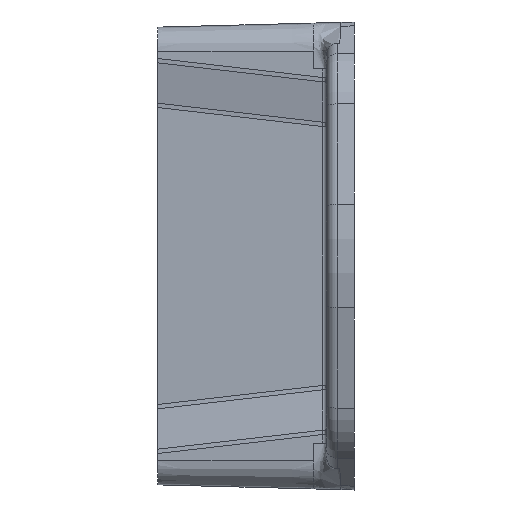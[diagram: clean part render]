
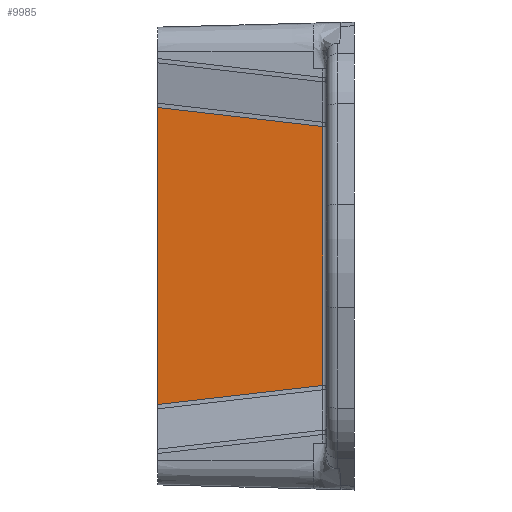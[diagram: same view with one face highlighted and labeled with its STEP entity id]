
A CAD part, left-side view. The second image highlights one B-rep face of the part: STEP entity #9985.
In plain terms, the highlighted planar face has unit normal (-1, 0.026, 0).
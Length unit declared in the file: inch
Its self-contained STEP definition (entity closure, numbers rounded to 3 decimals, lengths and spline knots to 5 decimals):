
#742 = ORIENTED_EDGE ( 'NONE', *, *, #4629, .T. ) ;
#744 = ORIENTED_EDGE ( 'NONE', *, *, #4551, .T. ) ;
#781 = ORIENTED_EDGE ( 'NONE', *, *, #4643, .F. ) ;
#829 = ORIENTED_EDGE ( 'NONE', *, *, #4627, .T. ) ;
#834 = EDGE_LOOP ( 'NONE', ( #742, #744, #829, #781 ) ) ;
#1048 = LINE ( 'NONE', #2166, #1358 ) ;
#1358 = VECTOR ( 'NONE', #2070, 39.37008 ) ;
#1946 = DIRECTION ( 'NONE',  ( 0.026, 0.993, 0.114 ) ) ;
#1953 = DIRECTION ( 'NONE',  ( -0.026, -0.993, 0.114 ) ) ;
#1961 = CARTESIAN_POINT ( 'NONE',  ( -1.52697, 0.00112, 0.6653 ) ) ;
#1962 = CARTESIAN_POINT ( 'NONE',  ( -1.54674, -0.75388, -0.5783 ) ) ;
#2015 = CARTESIAN_POINT ( 'NONE',  ( -1.527, 0., -0.675 ) ) ;
#2016 = DIRECTION ( 'NONE',  ( 0., 0., 1. ) ) ;
#2070 = DIRECTION ( 'NONE',  ( 0., 0., 1. ) ) ;
#2166 = CARTESIAN_POINT ( 'NONE',  ( -1.54637, -0.73978, -0.675 ) ) ;
#2529 = CARTESIAN_POINT ( 'NONE',  ( -1.54637, -0.73978, -0.57993 ) ) ;
#2559 = CARTESIAN_POINT ( 'NONE',  ( -1.527, 0., 0.66517 ) ) ;
#2640 = CARTESIAN_POINT ( 'NONE',  ( -1.527, 0., -0.66517 ) ) ;
#4306 = FACE_OUTER_BOUND ( 'NONE', #834, .T. ) ;
#4551 = EDGE_CURVE ( 'NONE', #6600, #6672, #1048, .T. ) ;
#4627 = EDGE_CURVE ( 'NONE', #6672, #6582, #12087, .T. ) ;
#4629 = EDGE_CURVE ( 'NONE', #6508, #6600, #12095, .T. ) ;
#4643 = EDGE_CURVE ( 'NONE', #6508, #6582, #12224, .T. ) ;
#4872 = AXIS2_PLACEMENT_3D ( 'NONE', #7926, #7557, #7502 ) ;
#6508 = VERTEX_POINT ( 'NONE', #2640 ) ;
#6582 = VERTEX_POINT ( 'NONE', #2559 ) ;
#6600 = VERTEX_POINT ( 'NONE', #2529 ) ;
#6672 = VERTEX_POINT ( 'NONE', #10165 ) ;
#7502 = DIRECTION ( 'NONE',  ( -0.026, -1., 0. ) ) ;
#7557 = DIRECTION ( 'NONE',  ( -1., 0.026, 0. ) ) ;
#7659 = PLANE ( 'NONE',  #4872 ) ;
#7926 = CARTESIAN_POINT ( 'NONE',  ( -1.527, 0., -0.675 ) ) ;
#9985 = ADVANCED_FACE ( 'NONE', ( #4306 ), #7659, .T. ) ;
#10165 = CARTESIAN_POINT ( 'NONE',  ( -1.54637, -0.73978, 0.57993 ) ) ;
#12087 = LINE ( 'NONE', #1961, #12089 ) ;
#12089 = VECTOR ( 'NONE', #1946, 39.37008 ) ;
#12095 = LINE ( 'NONE', #1962, #12098 ) ;
#12098 = VECTOR ( 'NONE', #1953, 39.37008 ) ;
#12114 = VECTOR ( 'NONE', #2016, 39.37008 ) ;
#12224 = LINE ( 'NONE', #2015, #12114 ) ;
